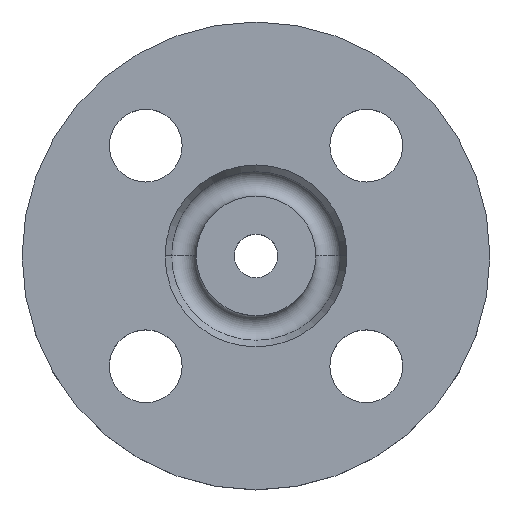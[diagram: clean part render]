
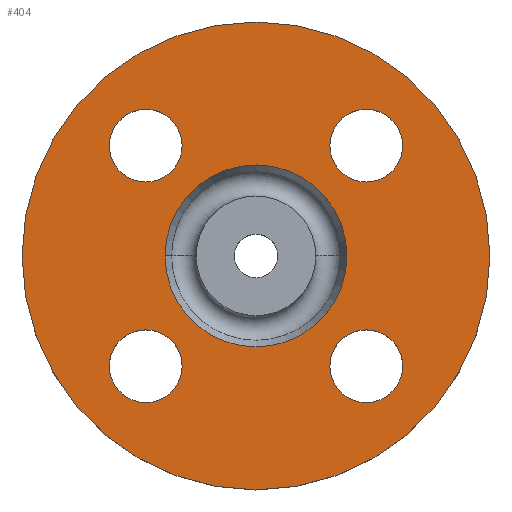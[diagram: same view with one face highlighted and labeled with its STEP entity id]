
A CAD part, top view. The second image highlights one B-rep face of the part: STEP entity #404.
In plain terms, the highlighted planar face has unit normal (0, 0, 1).
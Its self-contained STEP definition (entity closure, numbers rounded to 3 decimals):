
#1 = CARTESIAN_POINT ( 'NONE',  ( -28.213, -21.213, -2. ) ) ;
#9 = CARTESIAN_POINT ( 'NONE',  ( 28.213, -21.213, -2. ) ) ;
#23 = CARTESIAN_POINT ( 'NONE',  ( -45., 0., -2. ) ) ;
#35 = CIRCLE ( 'NONE', #425, 45. ) ;
#44 = CARTESIAN_POINT ( 'NONE',  ( 17.5, 0., -2. ) ) ;
#59 = CARTESIAN_POINT ( 'NONE',  ( -14.213, -21.213, -2. ) ) ;
#60 = CARTESIAN_POINT ( 'NONE',  ( 28.213, 21.213, -2. ) ) ;
#61 = CARTESIAN_POINT ( 'NONE',  ( -14.213, 21.213, -2. ) ) ;
#69 = EDGE_CURVE ( 'NONE', #454, #588, #441, .T. ) ;
#75 = EDGE_CURVE ( 'NONE', #426, #443, #111, .T. ) ;
#78 = CARTESIAN_POINT ( 'NONE',  ( -28.213, 21.213, -2. ) ) ;
#82 = CARTESIAN_POINT ( 'NONE',  ( 21.213, -21.213, -2. ) ) ;
#85 = CARTESIAN_POINT ( 'NONE',  ( 14.213, 21.213, -2. ) ) ;
#93 = EDGE_CURVE ( 'NONE', #623, #445, #35, .T. ) ;
#97 = FACE_OUTER_BOUND ( 'NONE', #604, .T. ) ;
#98 = CARTESIAN_POINT ( 'NONE',  ( -21.213, 21.213, -2. ) ) ;
#99 = CIRCLE ( 'NONE', #287, 17.5 ) ;
#101 = FACE_BOUND ( 'NONE', #645, .T. ) ;
#102 = DIRECTION ( 'NONE',  ( 1., 0., 0. ) ) ;
#103 = CARTESIAN_POINT ( 'NONE',  ( 45., 0., -2. ) ) ;
#104 = DIRECTION ( 'NONE',  ( 0., 0., -1. ) ) ;
#105 = DIRECTION ( 'NONE',  ( 0., 0., 1. ) ) ;
#111 = CIRCLE ( 'NONE', #372, 7. ) ;
#131 = DIRECTION ( 'NONE',  ( -1., 0., 0. ) ) ;
#139 = CARTESIAN_POINT ( 'NONE',  ( 45., 0., -2. ) ) ;
#142 = AXIS2_PLACEMENT_3D ( 'NONE', #103, #105, #102 ) ;
#156 = FACE_BOUND ( 'NONE', #363, .T. ) ;
#157 = PLANE ( 'NONE',  #142 ) ;
#175 = CARTESIAN_POINT ( 'NONE',  ( 14.213, -21.213, -2. ) ) ;
#184 = CARTESIAN_POINT ( 'NONE',  ( -21.213, 21.213, -2. ) ) ;
#185 = EDGE_CURVE ( 'NONE', #627, #594, #99, .T. ) ;
#186 = DIRECTION ( 'NONE',  ( 1., 0., 0. ) ) ;
#188 = DIRECTION ( 'NONE',  ( 0., 0., -1. ) ) ;
#190 = DIRECTION ( 'NONE',  ( 1., 0., 0. ) ) ;
#199 = EDGE_CURVE ( 'NONE', #443, #426, #444, .T. ) ;
#213 = AXIS2_PLACEMENT_3D ( 'NONE', #184, #188, #190 ) ;
#222 = CARTESIAN_POINT ( 'NONE',  ( 21.213, -21.213, -2. ) ) ;
#223 = DIRECTION ( 'NONE',  ( 0., 0., -1. ) ) ;
#227 = DIRECTION ( 'NONE',  ( 1., 0., 0. ) ) ;
#266 = FACE_BOUND ( 'NONE', #529, .T. ) ;
#271 = FACE_BOUND ( 'NONE', #456, .T. ) ;
#274 = CARTESIAN_POINT ( 'NONE',  ( -21.213, -21.213, -2. ) ) ;
#275 = DIRECTION ( 'NONE',  ( 1., 0., 0. ) ) ;
#276 = DIRECTION ( 'NONE',  ( 0., 0., -1. ) ) ;
#284 = AXIS2_PLACEMENT_3D ( 'NONE', #682, #683, #684 ) ;
#287 = AXIS2_PLACEMENT_3D ( 'NONE', #757, #758, #759 ) ;
#291 = FACE_BOUND ( 'NONE', #452, .T. ) ;
#295 = EDGE_CURVE ( 'NONE', #431, #442, #722, .T. ) ;
#297 = AXIS2_PLACEMENT_3D ( 'NONE', #274, #276, #275 ) ;
#299 = EDGE_CURVE ( 'NONE', #606, #583, #309, .T. ) ;
#301 = DIRECTION ( 'NONE',  ( 0., 0., -1. ) ) ;
#309 = CIRCLE ( 'NONE', #364, 7. ) ;
#322 = CARTESIAN_POINT ( 'NONE',  ( -17.5, 0., -2. ) ) ;
#326 = AXIS2_PLACEMENT_3D ( 'NONE', #82, #572, #186 ) ;
#331 = EDGE_CURVE ( 'NONE', #588, #454, #756, .T. ) ;
#336 = EDGE_CURVE ( 'NONE', #442, #431, #621, .T. ) ;
#350 = CARTESIAN_POINT ( 'NONE',  ( 0., 0., -2. ) ) ;
#363 = EDGE_LOOP ( 'NONE', ( #477, #480 ) ) ;
#364 = AXIS2_PLACEMENT_3D ( 'NONE', #222, #223, #227 ) ;
#372 = AXIS2_PLACEMENT_3D ( 'NONE', #685, #689, #691 ) ;
#384 = DIRECTION ( 'NONE',  ( 1., 0., 0. ) ) ;
#404 = ADVANCED_FACE ( 'NONE', ( #291, #101, #156, #266, #271, #97 ), #157, .T. ) ;
#425 = AXIS2_PLACEMENT_3D ( 'NONE', #695, #696, #697 ) ;
#426 = VERTEX_POINT ( 'NONE', #85 ) ;
#431 = VERTEX_POINT ( 'NONE', #78 ) ;
#441 = CIRCLE ( 'NONE', #284, 7. ) ;
#442 = VERTEX_POINT ( 'NONE', #61 ) ;
#443 = VERTEX_POINT ( 'NONE', #60 ) ;
#444 = CIRCLE ( 'NONE', #460, 7. ) ;
#445 = VERTEX_POINT ( 'NONE', #23 ) ;
#452 = EDGE_LOOP ( 'NONE', ( #467, #470 ) ) ;
#454 = VERTEX_POINT ( 'NONE', #59 ) ;
#456 = EDGE_LOOP ( 'NONE', ( #485, #488 ) ) ;
#460 = AXIS2_PLACEMENT_3D ( 'NONE', #769, #770, #772 ) ;
#467 = ORIENTED_EDGE ( 'NONE', *, *, #721, .T. ) ;
#470 = ORIENTED_EDGE ( 'NONE', *, *, #299, .T. ) ;
#473 = ORIENTED_EDGE ( 'NONE', *, *, #69, .T. ) ;
#475 = ORIENTED_EDGE ( 'NONE', *, *, #331, .T. ) ;
#477 = ORIENTED_EDGE ( 'NONE', *, *, #336, .T. ) ;
#480 = ORIENTED_EDGE ( 'NONE', *, *, #295, .T. ) ;
#482 = ORIENTED_EDGE ( 'NONE', *, *, #199, .T. ) ;
#484 = ORIENTED_EDGE ( 'NONE', *, *, #75, .T. ) ;
#485 = ORIENTED_EDGE ( 'NONE', *, *, #618, .T. ) ;
#488 = ORIENTED_EDGE ( 'NONE', *, *, #185, .T. ) ;
#489 = ORIENTED_EDGE ( 'NONE', *, *, #93, .F. ) ;
#490 = ORIENTED_EDGE ( 'NONE', *, *, #686, .F. ) ;
#492 = DIRECTION ( 'NONE',  ( -1., 0., 0. ) ) ;
#525 = AXIS2_PLACEMENT_3D ( 'NONE', #350, #631, #131 ) ;
#529 = EDGE_LOOP ( 'NONE', ( #482, #484 ) ) ;
#572 = DIRECTION ( 'NONE',  ( 0., 0., -1. ) ) ;
#583 = VERTEX_POINT ( 'NONE', #9 ) ;
#588 = VERTEX_POINT ( 'NONE', #1 ) ;
#594 = VERTEX_POINT ( 'NONE', #44 ) ;
#601 = CIRCLE ( 'NONE', #525, 17.5 ) ;
#604 = EDGE_LOOP ( 'NONE', ( #489, #490 ) ) ;
#606 = VERTEX_POINT ( 'NONE', #175 ) ;
#618 = EDGE_CURVE ( 'NONE', #594, #627, #601, .T. ) ;
#621 = CIRCLE ( 'NONE', #666, 7. ) ;
#623 = VERTEX_POINT ( 'NONE', #139 ) ;
#627 = VERTEX_POINT ( 'NONE', #322 ) ;
#631 = DIRECTION ( 'NONE',  ( 0., 0., -1. ) ) ;
#641 = CARTESIAN_POINT ( 'NONE',  ( 0., 0., -2. ) ) ;
#645 = EDGE_LOOP ( 'NONE', ( #473, #475 ) ) ;
#666 = AXIS2_PLACEMENT_3D ( 'NONE', #98, #104, #384 ) ;
#682 = CARTESIAN_POINT ( 'NONE',  ( -21.213, -21.213, -2. ) ) ;
#683 = DIRECTION ( 'NONE',  ( 0., 0., -1. ) ) ;
#684 = DIRECTION ( 'NONE',  ( 1., 0., 0. ) ) ;
#685 = CARTESIAN_POINT ( 'NONE',  ( 21.213, 21.213, -2. ) ) ;
#686 = EDGE_CURVE ( 'NONE', #445, #623, #708, .T. ) ;
#689 = DIRECTION ( 'NONE',  ( 0., 0., -1. ) ) ;
#691 = DIRECTION ( 'NONE',  ( 1., 0., 0. ) ) ;
#695 = CARTESIAN_POINT ( 'NONE',  ( 0., 0., -2. ) ) ;
#696 = DIRECTION ( 'NONE',  ( 0., 0., -1. ) ) ;
#697 = DIRECTION ( 'NONE',  ( -1., 0., 0. ) ) ;
#708 = CIRCLE ( 'NONE', #821, 45. ) ;
#721 = EDGE_CURVE ( 'NONE', #583, #606, #746, .T. ) ;
#722 = CIRCLE ( 'NONE', #213, 7. ) ;
#746 = CIRCLE ( 'NONE', #326, 7. ) ;
#756 = CIRCLE ( 'NONE', #297, 7. ) ;
#757 = CARTESIAN_POINT ( 'NONE',  ( 0., 0., -2. ) ) ;
#758 = DIRECTION ( 'NONE',  ( 0., 0., -1. ) ) ;
#759 = DIRECTION ( 'NONE',  ( -1., 0., 0. ) ) ;
#769 = CARTESIAN_POINT ( 'NONE',  ( 21.213, 21.213, -2. ) ) ;
#770 = DIRECTION ( 'NONE',  ( 0., 0., -1. ) ) ;
#772 = DIRECTION ( 'NONE',  ( 1., 0., 0. ) ) ;
#821 = AXIS2_PLACEMENT_3D ( 'NONE', #641, #301, #492 ) ;
